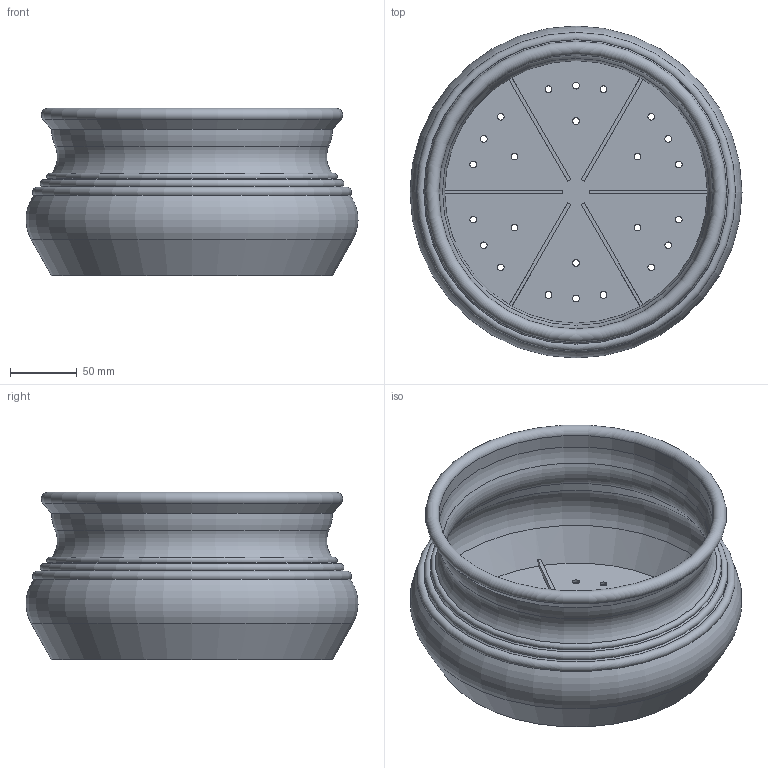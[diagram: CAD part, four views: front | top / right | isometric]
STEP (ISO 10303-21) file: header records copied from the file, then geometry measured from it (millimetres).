
FILE_DESCRIPTION(/* description */ (''),/* implementation_level */ '2;1');
FILE_NAME(/* name */ 'LR2406-S25-H125-D250_step.step',/* time_stamp */ '2024-02-01T10:58:55+01:00',/* author */ (''),/* organization */ (''),/* preprocessor_version */ 'ST-DEVELOPER v20',/* originating_system */ 'Autodesk Translation Framework v12.20.1.177',/* authorisation */ '');
FILE_SCHEMA (('AUTOMOTIVE_DESIGN { 1 0 10303 214 3 1 1 }'));
Length unit declared in the file: millimetre
Products named in the file (1): LR2406-S25-H125-D250
Bounding box: 247.99 x 247.99 x 125 mm (x, y, z)
Volume: 375890.8 mm3; surface area: 272935.1 mm2
Topology: 1 solids, 1 shells, 68 faces, 181 edges, 115 vertices
Faces by surface type: cylinder 31, plane 20, torus 10, cone 7
Full cylindrical faces by diameter (mm): 5 x24, 205 x1
Entity records: 2286 total; most frequent: DIRECTION 420, CARTESIAN_POINT 365, ORIENTED_EDGE 362, EDGE_CURVE 181, AXIS2_PLACEMENT_3D 170, EDGE_LOOP 116, VERTEX_POINT 115, CIRCLE 101
